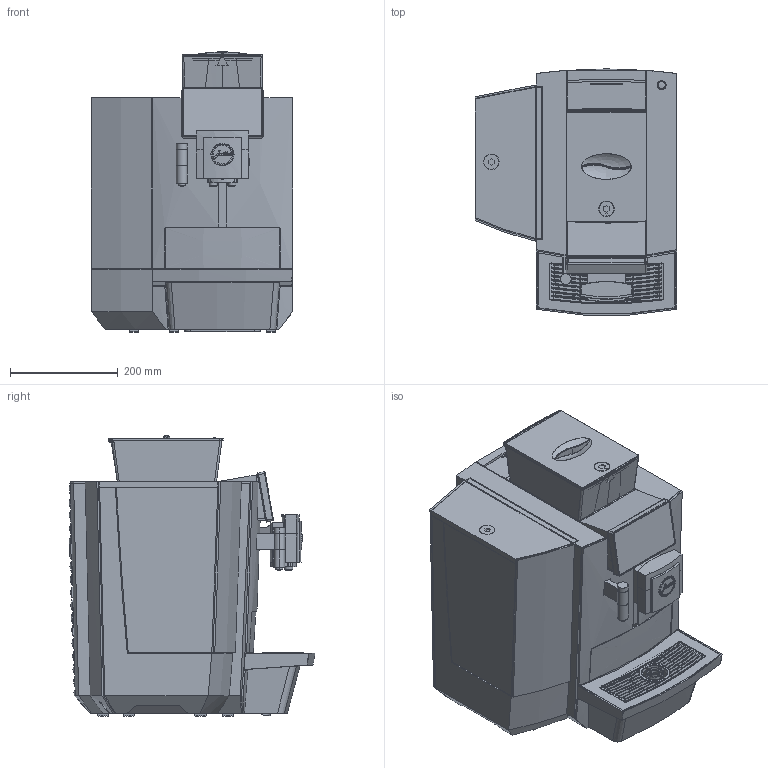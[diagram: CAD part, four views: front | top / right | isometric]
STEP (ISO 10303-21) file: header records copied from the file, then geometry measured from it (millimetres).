
FILE_DESCRIPTION (( 'STEP AP214' ), '1' );
FILE_NAME ('X10_XKappa_Touch.STEP', '2018-03-12T09:16:00', ( '' ), ( '' ), 'SwSTEP 2.0', 'SolidWorks 2015', '' );
FILE_SCHEMA (( 'AUTOMOTIVE_DESIGN' ));
Length unit declared in the file: millimetre
Products named in the file (1): X10_XKappa_Touch
Bounding box: 373.01 x 456.4 x 520.03 mm (x, y, z)
Volume: 39634329.8 mm3; surface area: 2601050.2 mm2
Topology: 32 solids, 32 shells, 2681 faces, 7359 edges, 4674 vertices
Faces by surface type: bspline 939, plane 858, cylinder 561, cone 235, sphere 45, torus 43
Full cylindrical faces by diameter (mm): 6 x3, 12 x1, 14 x1, 14.4 x1, 15 x2, 15.846 x2, 28 x1, 28.5 x1, 39 x1, 39.3 x1, 47 x1
Entity records: 113464 total; most frequent: CARTESIAN_POINT 55039, ORIENTED_EDGE 14486, DIRECTION 8673, EDGE_CURVE 7243, VERTEX_POINT 4639, AXIS2_PLACEMENT_3D 3020, B_SPLINE_CURVE_WITH_KNOTS 2834, EDGE_LOOP 2808
